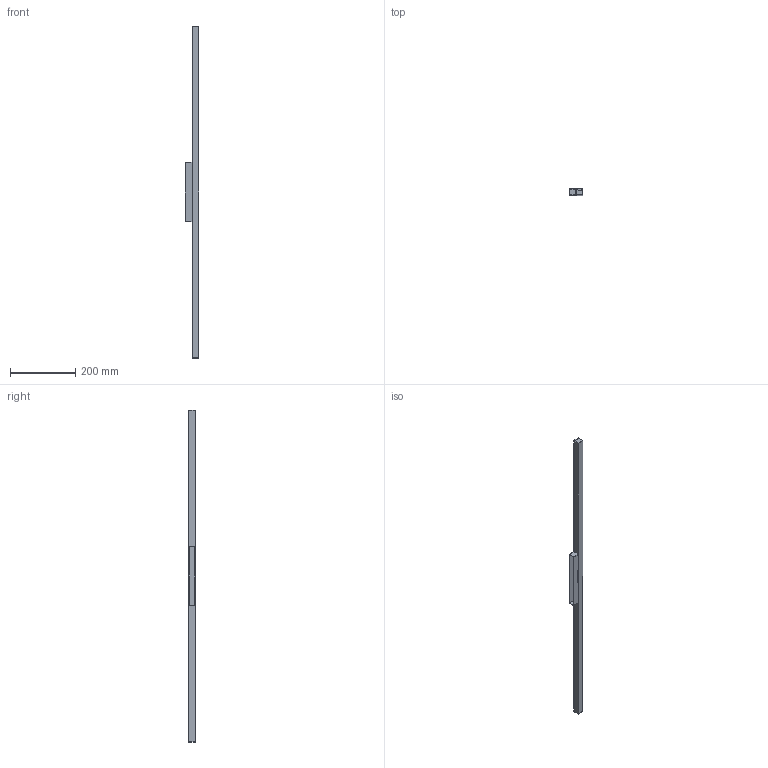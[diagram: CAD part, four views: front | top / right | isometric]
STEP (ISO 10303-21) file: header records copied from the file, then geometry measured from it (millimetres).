
FILE_DESCRIPTION (( 'STEP AP214' ), '1' );
FILE_NAME ('3D_LINESCAPES102_WALL_CEILING.STEP', '2018-03-15T12:41:26', ( 'Utente' ), ( '' ), 'SwSTEP 2.0', 'SolidWorks 2016', '' );
FILE_SCHEMA (( 'AUTOMOTIVE_DESIGN' ));
Length unit declared in the file: millimetre
Products named in the file (3): diffusore_l=1015MARTIMM-1^3D_LINESCAPES102_WALL_CEILING; Group2^3D_LINESCAPES102_WALL_CEILING; 3D_LINESCAPES102_WALL_CEILING
Assembly tree (2 placements, depth 2):
  3D_LINESCAPES102_WALL_CEILING
    Group2^3D_LINESCAPES102_WALL_CEILING
    diffusore_l=1015MARTIMM-1^3D_LINESCAPES102_WALL_CEILING
Bounding box: 40 x 20.03 x 1019 mm (x, y, z)
Volume: 383943.3 mm3; surface area: 154421.1 mm2
Topology: 2 solids, 2 shells, 86 faces, 205 edges, 123 vertices
Faces by surface type: plane 68, cylinder 18
Entity records: 2495 total; most frequent: CARTESIAN_POINT 467, ORIENTED_EDGE 410, DIRECTION 375, EDGE_CURVE 205, VECTOR 185, LINE 185, VERTEX_POINT 123, AXIS2_PLACEMENT_3D 95
